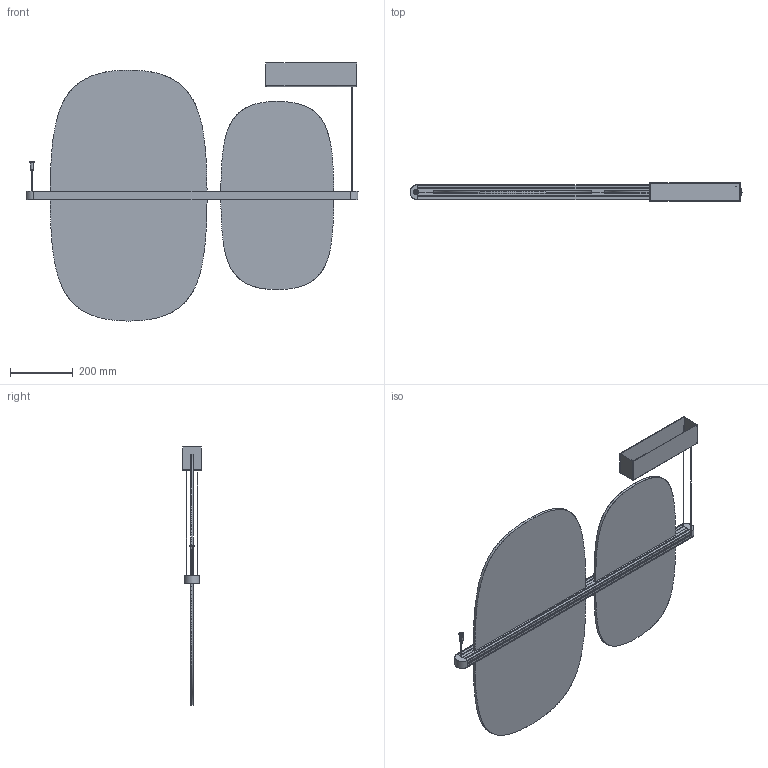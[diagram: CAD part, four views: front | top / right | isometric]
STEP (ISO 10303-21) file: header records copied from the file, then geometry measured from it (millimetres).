
FILE_DESCRIPTION(/* description */ (''),/* implementation_level */ '2;1');
FILE_NAME(/* name */ '199891~1',/* time_stamp */ '2021-06-09T15:09:33+02:00',/* author */ (''),/* organization */ (''),/* preprocessor_version */ 'ST-DEVELOPER v16.5',/* originating_system */ '',/* authorisation */ '');
FILE_SCHEMA (('AP203_CONFIGURATION_CONTROLLED_3D_DESIGN_OF_MECHANICAL_PARTS_AND_ASSEMBLIES_MIM_LF { 1 0 10303 203 3 1 4 }','TECHNICAL_DATA_PACKAGING'));
Length unit declared in the file: millimetre
Products named in the file (10): Document; MIN.005185; MIN.005186; PLA.005070; PRE.005672; CEL.005307_1; PRE.005671; CEL.005307; MET.005568; MET.005548
Assembly tree (13 placements, depth 3):
  Document
    MIN.005185
    MIN.005186
    PLA.005070  x4
    PRE.005672
      CEL.005307_1
    PRE.005671
      CEL.005307
    MET.005568
    MET.005548  x2
Bounding box: 1058.45 x 60 x 822.61 mm (x, y, z)
Volume: 5038656.4 mm3; surface area: 1792730 mm2
Topology: 20 solids, 22 shells, 1520 faces, 4453 edges, 2969 vertices
Faces by surface type: plane 1244, cylinder 243, bspline 33
Entity records: 40963 total; most frequent: CARTESIAN_POINT 14467, ORIENTED_EDGE 7686, EDGE_CURVE 3859, B_SPLINE_CURVE_WITH_KNOTS 3499, VERTEX_POINT 2573, DIRECTION 1350, EDGE_LOOP 1330, ADVANCED_FACE 1319
